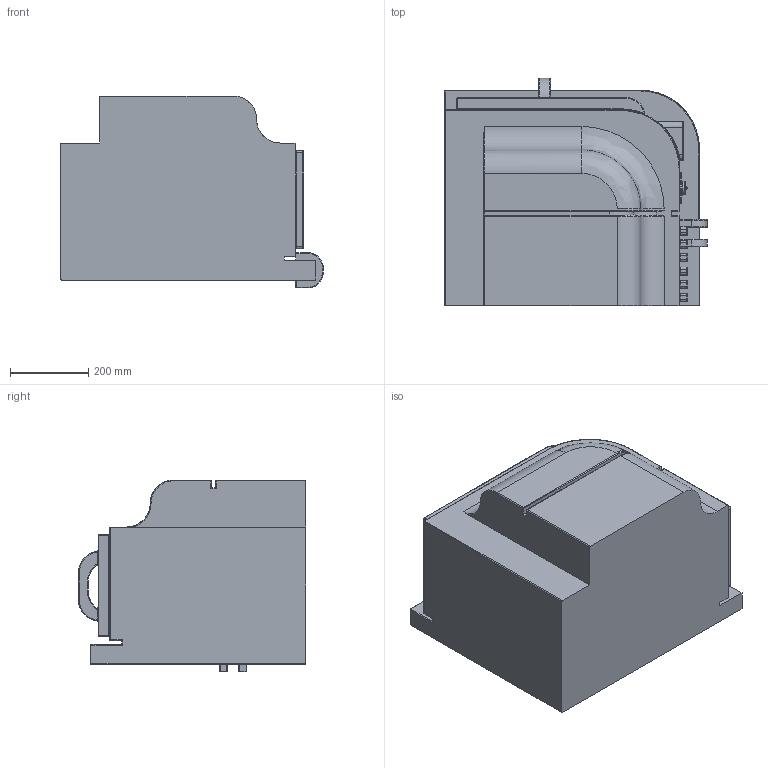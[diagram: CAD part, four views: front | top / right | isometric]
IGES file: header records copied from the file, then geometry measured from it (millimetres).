
Global section: file name: sifi abject v2; native system: unknown; preprocessor: unknown; author: unknown; organization: unknown; date: 20220627.134648; units: centimetre
Bounding box: 670 x 580 x 490.21 mm (x, y, z)
Volume: 129176640.1 mm3; surface area: 1877751 mm2
Topology: 1 solids, 1 shells, 552 faces, 1271 edges, 735 vertices
Faces by surface type: bspline 552
